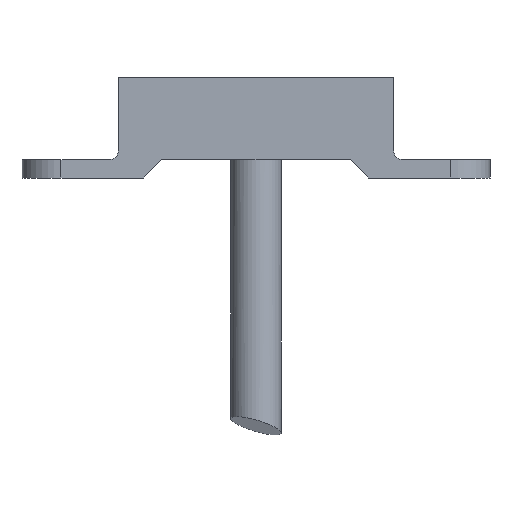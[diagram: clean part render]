
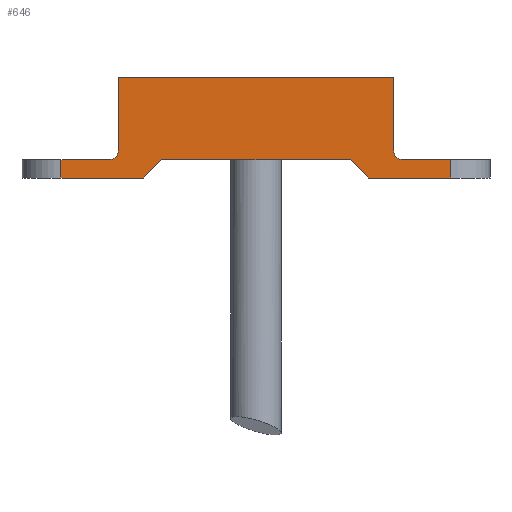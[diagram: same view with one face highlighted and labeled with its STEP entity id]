
A CAD part, left-side view. The second image highlights one B-rep face of the part: STEP entity #646.
In plain terms, the highlighted planar face has unit normal (-1, 0, 0).
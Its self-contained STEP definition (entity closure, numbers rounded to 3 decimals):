
#110=CARTESIAN_POINT('',(-4.25,-10.25,2.));
#111=VERTEX_POINT('',#110);
#112=CARTESIAN_POINT('',(-4.25,-12.25,0.0));
#113=VERTEX_POINT('',#112);
#114=CARTESIAN_POINT('',(-4.25,-10.25,2.));
#115=DIRECTION('',(0.0,-0.707,-0.707));
#116=VECTOR('',#115,2.828);
#117=LINE('',#114,#116);
#118=EDGE_CURVE('',#111,#113,#117,.T.);
#150=CARTESIAN_POINT('',(-4.25,10.25,2.));
#151=VERTEX_POINT('',#150);
#152=CARTESIAN_POINT('',(-4.25,10.25,2.));
#153=DIRECTION('',(0.0,-1.0,0.0));
#154=VECTOR('',#153,20.5);
#155=LINE('',#152,#154);
#156=EDGE_CURVE('',#151,#111,#155,.T.);
#184=CARTESIAN_POINT('',(-4.25,12.25,0.0));
#185=VERTEX_POINT('',#184);
#186=CARTESIAN_POINT('',(-4.25,12.25,0.0));
#187=DIRECTION('',(0.0,-0.707,0.707));
#188=VECTOR('',#187,2.828);
#189=LINE('',#186,#188);
#190=EDGE_CURVE('',#185,#151,#189,.T.);
#315=CARTESIAN_POINT('',(-4.25,21.25,0.0));
#316=VERTEX_POINT('',#315);
#317=CARTESIAN_POINT('',(-4.25,12.25,0.0));
#318=DIRECTION('',(0.0,1.0,0.0));
#319=VECTOR('',#318,9.);
#320=LINE('',#317,#319);
#321=EDGE_CURVE('',#185,#316,#320,.T.);
#350=CARTESIAN_POINT('',(-4.25,16.0,2.0));
#351=VERTEX_POINT('',#350);
#352=CARTESIAN_POINT('',(-4.25,15.0,3.));
#353=VERTEX_POINT('',#352);
#354=CARTESIAN_POINT('',(-4.25,16.0,3.));
#355=DIRECTION('',(-1.,0.0,0.0));
#356=DIRECTION('',(0.0,-0.707,-0.707));
#357=AXIS2_PLACEMENT_3D('',#354,#355,#356);
#358=CIRCLE('',#357,1.);
#359=EDGE_CURVE('',#351,#353,#358,.T.);
#383=CARTESIAN_POINT('',(-4.25,15.0,11.0));
#384=VERTEX_POINT('',#383);
#385=CARTESIAN_POINT('',(-4.25,15.0,3.));
#386=DIRECTION('',(0.0,0.0,1.0));
#387=VECTOR('',#386,8.0);
#388=LINE('',#385,#387);
#389=EDGE_CURVE('',#353,#384,#388,.T.);
#407=CARTESIAN_POINT('',(-4.25,-15.0,3.));
#408=VERTEX_POINT('',#407);
#415=CARTESIAN_POINT('',(-4.25,-16.0,2.0));
#416=VERTEX_POINT('',#415);
#417=CARTESIAN_POINT('',(-4.25,-16.0,3.));
#418=DIRECTION('',(-1.,0.0,0.0));
#419=DIRECTION('',(0.0,0.707,-0.707));
#420=AXIS2_PLACEMENT_3D('',#417,#418,#419);
#421=CIRCLE('',#420,1.);
#422=EDGE_CURVE('',#408,#416,#421,.T.);
#440=CARTESIAN_POINT('',(-4.25,-15.0,11.0));
#441=VERTEX_POINT('',#440);
#448=CARTESIAN_POINT('',(-4.25,-15.0,3.));
#449=DIRECTION('',(0.0,0.0,1.0));
#450=VECTOR('',#449,8.0);
#451=LINE('',#448,#450);
#452=EDGE_CURVE('',#408,#441,#451,.T.);
#512=CARTESIAN_POINT('',(-4.25,-15.0,11.0));
#513=DIRECTION('',(0.0,1.0,0.0));
#514=VECTOR('',#513,30.0);
#515=LINE('',#512,#514);
#516=EDGE_CURVE('',#441,#384,#515,.T.);
#529=CARTESIAN_POINT('',(-4.25,-21.25,0.0));
#530=VERTEX_POINT('',#529);
#538=CARTESIAN_POINT('',(-4.25,-21.25,0.0));
#539=DIRECTION('',(0.0,1.0,0.0));
#540=VECTOR('',#539,9.);
#541=LINE('',#538,#540);
#542=EDGE_CURVE('',#530,#113,#541,.T.);
#556=CARTESIAN_POINT('',(-4.25,-21.25,2.0));
#557=VERTEX_POINT('',#556);
#558=CARTESIAN_POINT('',(-4.25,-21.25,2.0));
#559=DIRECTION('',(0.0,1.0,0.0));
#560=VECTOR('',#559,5.25);
#561=LINE('',#558,#560);
#562=EDGE_CURVE('',#557,#416,#561,.T.);
#583=CARTESIAN_POINT('',(-4.25,21.25,2.0));
#584=VERTEX_POINT('',#583);
#594=CARTESIAN_POINT('',(-4.25,21.25,0.0));
#595=DIRECTION('',(0.0,0.0,1.0));
#596=VECTOR('',#595,2.0);
#597=LINE('',#594,#596);
#598=EDGE_CURVE('',#316,#584,#597,.T.);
#609=CARTESIAN_POINT('',(-4.25,-21.25,0.0));
#610=DIRECTION('',(0.0,0.0,1.0));
#611=VECTOR('',#610,2.0);
#612=LINE('',#609,#611);
#613=EDGE_CURVE('',#530,#557,#612,.T.);
#620=CARTESIAN_POINT('',(-4.25,-21.25,0.0));
#621=DIRECTION('',(-1.0,0.0,0.0));
#622=DIRECTION('',(0.0,0.0,1.0));
#623=AXIS2_PLACEMENT_3D('',#620,#621,#622);
#624=PLANE('',#623);
#625=ORIENTED_EDGE('',*,*,#118,.T.);
#626=ORIENTED_EDGE('',*,*,#542,.F.);
#627=ORIENTED_EDGE('',*,*,#613,.T.);
#628=ORIENTED_EDGE('',*,*,#562,.T.);
#629=ORIENTED_EDGE('',*,*,#422,.F.);
#630=ORIENTED_EDGE('',*,*,#452,.T.);
#631=ORIENTED_EDGE('',*,*,#516,.T.);
#632=ORIENTED_EDGE('',*,*,#389,.F.);
#633=ORIENTED_EDGE('',*,*,#359,.F.);
#634=CARTESIAN_POINT('',(-4.25,16.,2.0));
#635=DIRECTION('',(0.0,1.0,0.0));
#636=VECTOR('',#635,5.25);
#637=LINE('',#634,#636);
#638=EDGE_CURVE('',#351,#584,#637,.T.);
#639=ORIENTED_EDGE('',*,*,#638,.T.);
#640=ORIENTED_EDGE('',*,*,#598,.F.);
#641=ORIENTED_EDGE('',*,*,#321,.F.);
#642=ORIENTED_EDGE('',*,*,#190,.T.);
#643=ORIENTED_EDGE('',*,*,#156,.T.);
#644=EDGE_LOOP('',(#625,#626,#627,#628,#629,#630,#631,#632,#633,#639,#640,#641,#642,#643));
#645=FACE_OUTER_BOUND('',#644,.T.);
#646=ADVANCED_FACE('',(#645),#624,.T.);
